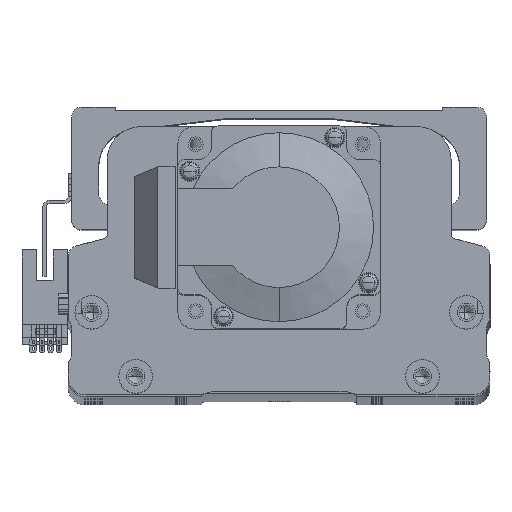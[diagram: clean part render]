
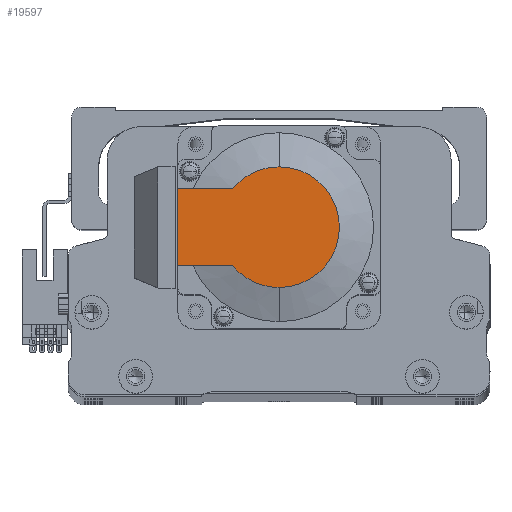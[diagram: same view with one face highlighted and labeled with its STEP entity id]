
A CAD part, top view. The second image highlights one B-rep face of the part: STEP entity #19597.
In plain terms, the highlighted planar face has unit normal (0, 0, 1) as drawn and (-1, 0, 0) by its records, which use the part's own axes.
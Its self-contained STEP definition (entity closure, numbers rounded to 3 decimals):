
#355 = AXIS2_PLACEMENT_3D ( 'NONE', #22710, #53550, #27096 ) ;
#1128 = CARTESIAN_POINT ( 'NONE',  ( -118.5, 0., 0. ) ) ;
#2497 = AXIS2_PLACEMENT_3D ( 'NONE', #40315, #13938, #44723 ) ;
#3975 = CARTESIAN_POINT ( 'NONE',  ( -118.5, -8.941, -11.45 ) ) ;
#5538 = DIRECTION ( 'NONE',  ( 0., 0., -1. ) ) ;
#6021 = ORIENTED_EDGE ( 'NONE', *, *, #24759, .T. ) ;
#6521 = CARTESIAN_POINT ( 'NONE',  ( -118.5, 13.735, 11.45 ) ) ;
#7574 = EDGE_CURVE ( 'NONE', #19707, #22998, #45551, .T. ) ;
#9129 = ORIENTED_EDGE ( 'NONE', *, *, #14918, .T. ) ;
#9824 = DIRECTION ( 'NONE',  ( 0., -1., 0. ) ) ;
#10027 = CARTESIAN_POINT ( 'NONE',  ( -118.5, 30., 11.45 ) ) ;
#13317 = DIRECTION ( 'NONE',  ( 0., 0., 1. ) ) ;
#13442 = CARTESIAN_POINT ( 'NONE',  ( -118.5, 0., -17.881 ) ) ;
#13938 = DIRECTION ( 'NONE',  ( -1., 0., 0. ) ) ;
#14918 = EDGE_CURVE ( 'NONE', #29228, #28233, #38894, .T. ) ;
#17770 = CARTESIAN_POINT ( 'NONE',  ( -118.5, 30., 25. ) ) ;
#18025 = EDGE_CURVE ( 'NONE', #19707, #34281, #43522, .T. ) ;
#18187 = PLANE ( 'NONE',  #2497 ) ;
#18589 = LINE ( 'NONE', #36270, #28896 ) ;
#19597 = ADVANCED_FACE ( 'NONE', ( #41164 ), #18187, .T. ) ;
#19707 = VERTEX_POINT ( 'NONE', #32600 ) ;
#21762 = DIRECTION ( 'NONE',  ( 0., -1., 0. ) ) ;
#22135 = VECTOR ( 'NONE', #13317, 1000. ) ;
#22594 = EDGE_LOOP ( 'NONE', ( #36449, #6021, #36371, #9129, #47477, #41407 ) ) ;
#22710 = CARTESIAN_POINT ( 'NONE',  ( -118.5, 0., 0. ) ) ;
#22998 = VERTEX_POINT ( 'NONE', #10027 ) ;
#24759 = EDGE_CURVE ( 'NONE', #34281, #48506, #52635, .T. ) ;
#25355 = CIRCLE ( 'NONE', #355, 17.881 ) ;
#26303 = CARTESIAN_POINT ( 'NONE',  ( -118.5, 0., 0. ) ) ;
#27096 = DIRECTION ( 'NONE',  ( 0., 0., -1. ) ) ;
#27116 = EDGE_CURVE ( 'NONE', #48506, #29228, #25355, .T. ) ;
#28233 = VERTEX_POINT ( 'NONE', #6521 ) ;
#28896 = VECTOR ( 'NONE', #9824, 1000. ) ;
#29228 = VERTEX_POINT ( 'NONE', #36573 ) ;
#30754 = DIRECTION ( 'NONE',  ( 0., 0., -1. ) ) ;
#31853 = VECTOR ( 'NONE', #21762, 1000. ) ;
#31997 = DIRECTION ( 'NONE',  ( -1., 0., 0. ) ) ;
#32600 = CARTESIAN_POINT ( 'NONE',  ( -118.5, 30., -11.45 ) ) ;
#34281 = VERTEX_POINT ( 'NONE', #34633 ) ;
#34633 = CARTESIAN_POINT ( 'NONE',  ( -118.5, 13.735, -11.45 ) ) ;
#36270 = CARTESIAN_POINT ( 'NONE',  ( -118.5, 0., 11.45 ) ) ;
#36371 = ORIENTED_EDGE ( 'NONE', *, *, #27116, .T. ) ;
#36449 = ORIENTED_EDGE ( 'NONE', *, *, #18025, .T. ) ;
#36573 = CARTESIAN_POINT ( 'NONE',  ( -118.5, 0., 17.881 ) ) ;
#38894 = CIRCLE ( 'NONE', #55494, 17.881 ) ;
#40315 = CARTESIAN_POINT ( 'NONE',  ( -118.5, -8.941, 0. ) ) ;
#41164 = FACE_OUTER_BOUND ( 'NONE', #22594, .T. ) ;
#41407 = ORIENTED_EDGE ( 'NONE', *, *, #7574, .F. ) ;
#43283 = EDGE_CURVE ( 'NONE', #22998, #28233, #18589, .T. ) ;
#43522 = LINE ( 'NONE', #3975, #31853 ) ;
#44723 = DIRECTION ( 'NONE',  ( 0., 0., 1. ) ) ;
#45551 = LINE ( 'NONE', #17770, #22135 ) ;
#47477 = ORIENTED_EDGE ( 'NONE', *, *, #43283, .F. ) ;
#48506 = VERTEX_POINT ( 'NONE', #13442 ) ;
#51519 = AXIS2_PLACEMENT_3D ( 'NONE', #26303, #57209, #30754 ) ;
#52635 = CIRCLE ( 'NONE', #51519, 17.881 ) ;
#53550 = DIRECTION ( 'NONE',  ( -1., 0., 0. ) ) ;
#55494 = AXIS2_PLACEMENT_3D ( 'NONE', #1128, #31997, #5538 ) ;
#57209 = DIRECTION ( 'NONE',  ( -1., 0., 0. ) ) ;
